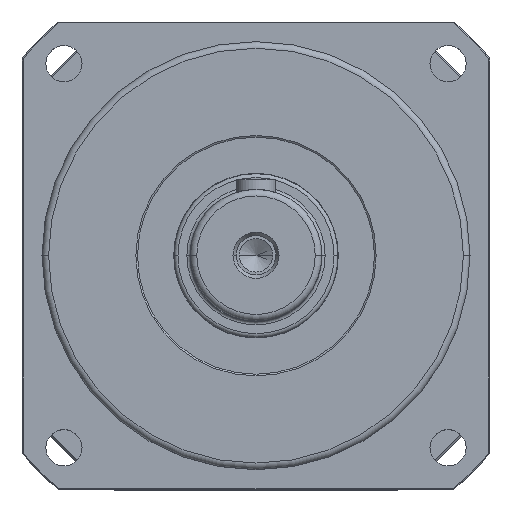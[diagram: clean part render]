
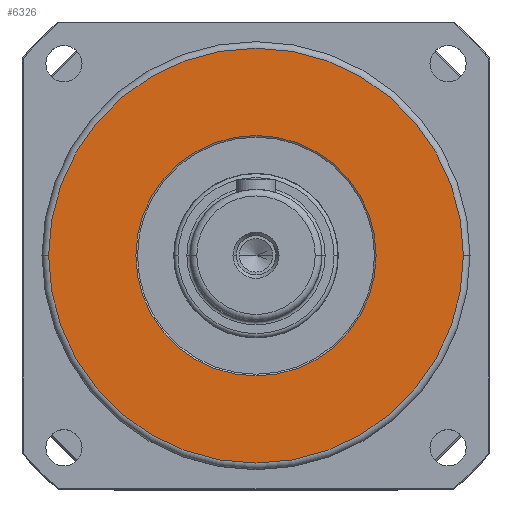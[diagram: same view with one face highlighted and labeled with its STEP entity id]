
A CAD part, top view. The second image highlights one B-rep face of the part: STEP entity #6326.
In plain terms, the highlighted planar face has unit normal (0, 0, 1).
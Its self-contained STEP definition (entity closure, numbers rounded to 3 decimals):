
#1751 = FACE_BOUND ( 'NONE', #8470, .T. ) ;
#1752 = FACE_OUTER_BOUND ( 'NONE', #8471, .T. ) ;
#3925 = ORIENTED_EDGE ( 'NONE', *, *, #9860, .T. ) ;
#3927 = ORIENTED_EDGE ( 'NONE', *, *, #14642, .T. ) ;
#3928 = ORIENTED_EDGE ( 'NONE', *, *, #14643, .T. ) ;
#3929 = ORIENTED_EDGE ( 'NONE', *, *, #9864, .T. ) ;
#6326 = ADVANCED_FACE ( 'NONE', ( #1751, #1752 ), #21640, .T. ) ;
#7369 = VERTEX_POINT ( 'NONE', #10042 ) ;
#7370 = VERTEX_POINT ( 'NONE', #10043 ) ;
#7373 = VERTEX_POINT ( 'NONE', #10046 ) ;
#7374 = VERTEX_POINT ( 'NONE', #10047 ) ;
#8470 = EDGE_LOOP ( 'NONE', ( #3925, #3927 ) ) ;
#8471 = EDGE_LOOP ( 'NONE', ( #3929, #3928 ) ) ;
#9860 = EDGE_CURVE ( 'NONE', #7373, #7374, #19915, .T. ) ;
#9864 = EDGE_CURVE ( 'NONE', #7369, #7370, #19917, .T. ) ;
#10042 = CARTESIAN_POINT ( 'NONE',  ( 63., 0., 15. ) ) ;
#10043 = CARTESIAN_POINT ( 'NONE',  ( -63., 0., 15. ) ) ;
#10046 = CARTESIAN_POINT ( 'NONE',  ( 36.5, 0., 15. ) ) ;
#10047 = CARTESIAN_POINT ( 'NONE',  ( -36.5, 0., 15. ) ) ;
#13933 = CIRCLE ( 'NONE', #13942, 63. ) ;
#13935 = CIRCLE ( 'NONE', #13940, 36.5 ) ;
#13940 = AXIS2_PLACEMENT_3D ( 'NONE', #14189, #14190, #14191 ) ;
#13942 = AXIS2_PLACEMENT_3D ( 'NONE', #14192, #14193, #14194 ) ;
#14189 = CARTESIAN_POINT ( 'NONE',  ( 0., 0., 15. ) ) ;
#14190 = DIRECTION ( 'NONE',  ( 0., 0., -1. ) ) ;
#14191 = DIRECTION ( 'NONE',  ( 1., 0., 0. ) ) ;
#14192 = CARTESIAN_POINT ( 'NONE',  ( 0., 0., 15. ) ) ;
#14193 = DIRECTION ( 'NONE',  ( 0., 0., 1. ) ) ;
#14194 = DIRECTION ( 'NONE',  ( 1., 0., 0. ) ) ;
#14642 = EDGE_CURVE ( 'NONE', #7374, #7373, #13935, .T. ) ;
#14643 = EDGE_CURVE ( 'NONE', #7370, #7369, #13933, .T. ) ;
#19915 = CIRCLE ( 'NONE', #19916, 36.5 ) ;
#19916 = AXIS2_PLACEMENT_3D ( 'NONE', #20738, #20739, #20740 ) ;
#19917 = CIRCLE ( 'NONE', #19923, 63. ) ;
#19923 = AXIS2_PLACEMENT_3D ( 'NONE', #20749, #20750, #20751 ) ;
#20738 = CARTESIAN_POINT ( 'NONE',  ( 0., 0., 15. ) ) ;
#20739 = DIRECTION ( 'NONE',  ( 0., 0., -1. ) ) ;
#20740 = DIRECTION ( 'NONE',  ( 1., 0., 0. ) ) ;
#20749 = CARTESIAN_POINT ( 'NONE',  ( 0., 0., 15. ) ) ;
#20750 = DIRECTION ( 'NONE',  ( 0., 0., 1. ) ) ;
#20751 = DIRECTION ( 'NONE',  ( 1., 0., 0. ) ) ;
#21640 = PLANE ( 'NONE',  #21775 ) ;
#21641 = CARTESIAN_POINT ( 'NONE',  ( 0., 0., 15. ) ) ;
#21642 = DIRECTION ( 'NONE',  ( 0., 0., 1. ) ) ;
#21643 = DIRECTION ( 'NONE',  ( 1., 0., 0. ) ) ;
#21775 = AXIS2_PLACEMENT_3D ( 'NONE', #21641, #21642, #21643 ) ;
